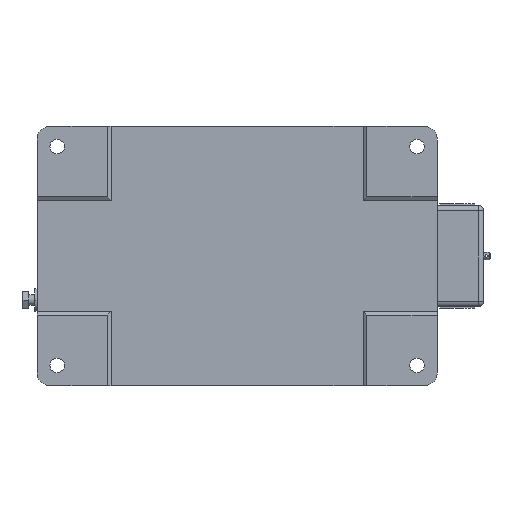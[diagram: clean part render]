
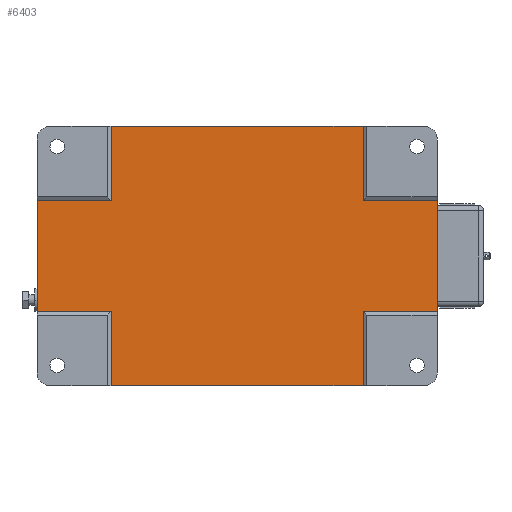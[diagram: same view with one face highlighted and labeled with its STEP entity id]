
A CAD part, front view. The second image highlights one B-rep face of the part: STEP entity #6403.
In plain terms, the highlighted planar face has unit normal (0, -1, 0).
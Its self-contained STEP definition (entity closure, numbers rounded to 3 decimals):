
#262 = DIRECTION ( 'NONE',  ( 0., 0., 1. ) ) ;
#329 = EDGE_CURVE ( 'NONE', #6714, #13992, #6674, .T. ) ;
#405 = VERTEX_POINT ( 'NONE', #10320 ) ;
#632 = CARTESIAN_POINT ( 'NONE',  ( -208., 2., -44.144 ) ) ;
#667 = LINE ( 'NONE', #3936, #13817 ) ;
#783 = ORIENTED_EDGE ( 'NONE', *, *, #7621, .F. ) ;
#794 = LINE ( 'NONE', #9722, #11947 ) ;
#896 = EDGE_CURVE ( 'NONE', #9450, #12929, #7492, .T. ) ;
#1191 = CARTESIAN_POINT ( 'NONE',  ( -149.144, 2., -103. ) ) ;
#1479 = ORIENTED_EDGE ( 'NONE', *, *, #12547, .T. ) ;
#1546 = DIRECTION ( 'NONE',  ( 1., 0., 0. ) ) ;
#1896 = CARTESIAN_POINT ( 'NONE',  ( -208., 2., -44.144 ) ) ;
#2077 = DIRECTION ( 'NONE',  ( 0., 0., 1. ) ) ;
#2542 = DIRECTION ( 'NONE',  ( 0., 0., 1. ) ) ;
#2620 = LINE ( 'NONE', #11203, #12828 ) ;
#2797 = LINE ( 'NONE', #7141, #6457 ) ;
#2810 = ORIENTED_EDGE ( 'NONE', *, *, #13235, .F. ) ;
#2910 = CARTESIAN_POINT ( 'NONE',  ( -149.144, 2., -44.144 ) ) ;
#2927 = DIRECTION ( 'NONE',  ( 0., 0., 1. ) ) ;
#3060 = VECTOR ( 'NONE', #2927, 1000. ) ;
#3541 = EDGE_CURVE ( 'NONE', #7527, #8914, #9904, .T. ) ;
#3928 = CARTESIAN_POINT ( 'NONE',  ( -208., 2., 44.144 ) ) ;
#3936 = CARTESIAN_POINT ( 'NONE',  ( 51.144, 2., 103. ) ) ;
#4510 = VECTOR ( 'NONE', #1546, 1000. ) ;
#4636 = CARTESIAN_POINT ( 'NONE',  ( 51.144, 2., -103. ) ) ;
#4839 = CARTESIAN_POINT ( 'NONE',  ( 51.144, 2., 44.144 ) ) ;
#5454 = VECTOR ( 'NONE', #7854, 1000. ) ;
#5597 = VECTOR ( 'NONE', #7348, 1000. ) ;
#5728 = LINE ( 'NONE', #10184, #12382 ) ;
#5958 = VERTEX_POINT ( 'NONE', #7580 ) ;
#6087 = EDGE_CURVE ( 'NONE', #8914, #5958, #667, .T. ) ;
#6130 = DIRECTION ( 'NONE',  ( -1., 0., 0. ) ) ;
#6263 = DIRECTION ( 'NONE',  ( 0., 1., 0. ) ) ;
#6319 = EDGE_LOOP ( 'NONE', ( #9162, #12019, #12505, #2810, #7585, #9600, #11298, #783, #8406, #12034, #9627, #1479 ) ) ;
#6384 = AXIS2_PLACEMENT_3D ( 'NONE', #3928, #6263, #6130 ) ;
#6403 = ADVANCED_FACE ( 'NONE', ( #9434 ), #10364, .F. ) ;
#6457 = VECTOR ( 'NONE', #8318, 1000. ) ;
#6674 = LINE ( 'NONE', #6823, #5454 ) ;
#6694 = DIRECTION ( 'NONE',  ( 1., 0., 0. ) ) ;
#6714 = VERTEX_POINT ( 'NONE', #632 ) ;
#6823 = CARTESIAN_POINT ( 'NONE',  ( -208., 2., -44.144 ) ) ;
#7111 = CARTESIAN_POINT ( 'NONE',  ( -208., 2., 44.144 ) ) ;
#7141 = CARTESIAN_POINT ( 'NONE',  ( -208., 2., 44.144 ) ) ;
#7348 = DIRECTION ( 'NONE',  ( -1., 0., 0. ) ) ;
#7492 = LINE ( 'NONE', #10665, #5597 ) ;
#7527 = VERTEX_POINT ( 'NONE', #4839 ) ;
#7552 = VECTOR ( 'NONE', #13474, 1000. ) ;
#7580 = CARTESIAN_POINT ( 'NONE',  ( -149.144, 2., 103. ) ) ;
#7585 = ORIENTED_EDGE ( 'NONE', *, *, #11912, .F. ) ;
#7621 = EDGE_CURVE ( 'NONE', #12929, #13992, #10061, .T. ) ;
#7854 = DIRECTION ( 'NONE',  ( 1., 0., 0. ) ) ;
#8091 = EDGE_CURVE ( 'NONE', #13900, #11126, #8156, .T. ) ;
#8156 = LINE ( 'NONE', #1896, #13655 ) ;
#8157 = CARTESIAN_POINT ( 'NONE',  ( 110., 2., 44.144 ) ) ;
#8318 = DIRECTION ( 'NONE',  ( 0., 0., 1. ) ) ;
#8406 = ORIENTED_EDGE ( 'NONE', *, *, #896, .F. ) ;
#8914 = VERTEX_POINT ( 'NONE', #9132 ) ;
#9080 = CARTESIAN_POINT ( 'NONE',  ( -149.144, 2., -103. ) ) ;
#9132 = CARTESIAN_POINT ( 'NONE',  ( 51.144, 2., 103. ) ) ;
#9162 = ORIENTED_EDGE ( 'NONE', *, *, #13933, .F. ) ;
#9216 = LINE ( 'NONE', #12596, #3060 ) ;
#9434 = FACE_OUTER_BOUND ( 'NONE', #6319, .T. ) ;
#9450 = VERTEX_POINT ( 'NONE', #4636 ) ;
#9598 = EDGE_CURVE ( 'NONE', #6714, #10356, #2797, .T. ) ;
#9600 = ORIENTED_EDGE ( 'NONE', *, *, #9598, .F. ) ;
#9627 = ORIENTED_EDGE ( 'NONE', *, *, #8091, .T. ) ;
#9722 = CARTESIAN_POINT ( 'NONE',  ( 110., 2., 44.144 ) ) ;
#9904 = LINE ( 'NONE', #13456, #9945 ) ;
#9945 = VECTOR ( 'NONE', #2542, 1000. ) ;
#10037 = EDGE_CURVE ( 'NONE', #9450, #13900, #9216, .T. ) ;
#10061 = LINE ( 'NONE', #9080, #7552 ) ;
#10184 = CARTESIAN_POINT ( 'NONE',  ( -149.144, 2., -103. ) ) ;
#10272 = CARTESIAN_POINT ( 'NONE',  ( 110., 2., -44.144 ) ) ;
#10273 = LINE ( 'NONE', #7111, #4510 ) ;
#10320 = CARTESIAN_POINT ( 'NONE',  ( -149.144, 2., 44.144 ) ) ;
#10356 = VERTEX_POINT ( 'NONE', #11808 ) ;
#10364 = PLANE ( 'NONE',  #6384 ) ;
#10665 = CARTESIAN_POINT ( 'NONE',  ( 51.144, 2., -103. ) ) ;
#11126 = VERTEX_POINT ( 'NONE', #10272 ) ;
#11203 = CARTESIAN_POINT ( 'NONE',  ( -208., 2., 44.144 ) ) ;
#11298 = ORIENTED_EDGE ( 'NONE', *, *, #329, .T. ) ;
#11590 = DIRECTION ( 'NONE',  ( -1., 0., 0. ) ) ;
#11808 = CARTESIAN_POINT ( 'NONE',  ( -208., 2., 44.144 ) ) ;
#11912 = EDGE_CURVE ( 'NONE', #10356, #405, #2620, .T. ) ;
#11947 = VECTOR ( 'NONE', #2077, 1000. ) ;
#12019 = ORIENTED_EDGE ( 'NONE', *, *, #3541, .T. ) ;
#12034 = ORIENTED_EDGE ( 'NONE', *, *, #10037, .T. ) ;
#12382 = VECTOR ( 'NONE', #262, 1000. ) ;
#12505 = ORIENTED_EDGE ( 'NONE', *, *, #6087, .T. ) ;
#12547 = EDGE_CURVE ( 'NONE', #11126, #12987, #794, .T. ) ;
#12596 = CARTESIAN_POINT ( 'NONE',  ( 51.144, 2., -103. ) ) ;
#12828 = VECTOR ( 'NONE', #6694, 1000. ) ;
#12929 = VERTEX_POINT ( 'NONE', #1191 ) ;
#12987 = VERTEX_POINT ( 'NONE', #8157 ) ;
#13235 = EDGE_CURVE ( 'NONE', #405, #5958, #5728, .T. ) ;
#13456 = CARTESIAN_POINT ( 'NONE',  ( 51.144, 2., -103. ) ) ;
#13474 = DIRECTION ( 'NONE',  ( 0., 0., 1. ) ) ;
#13602 = CARTESIAN_POINT ( 'NONE',  ( 51.144, 2., -44.144 ) ) ;
#13655 = VECTOR ( 'NONE', #13730, 1000. ) ;
#13730 = DIRECTION ( 'NONE',  ( 1., 0., 0. ) ) ;
#13817 = VECTOR ( 'NONE', #11590, 1000. ) ;
#13900 = VERTEX_POINT ( 'NONE', #13602 ) ;
#13933 = EDGE_CURVE ( 'NONE', #7527, #12987, #10273, .T. ) ;
#13992 = VERTEX_POINT ( 'NONE', #2910 ) ;
